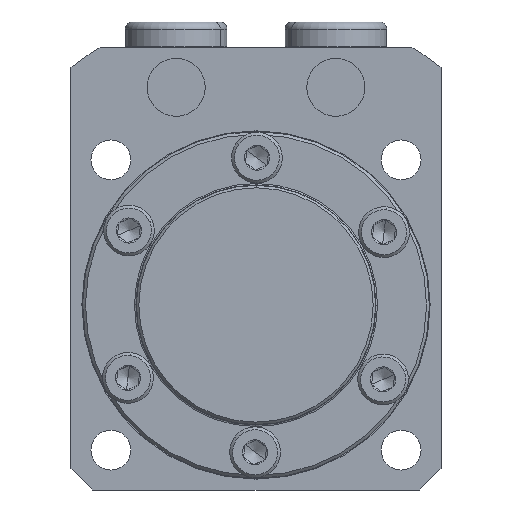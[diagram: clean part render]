
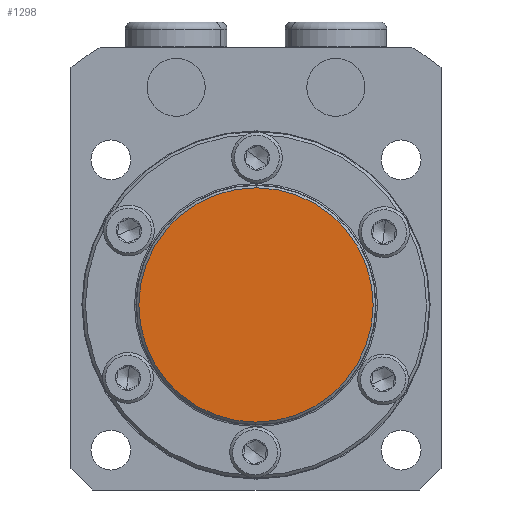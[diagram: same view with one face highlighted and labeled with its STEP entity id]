
A CAD part, front view. The second image highlights one B-rep face of the part: STEP entity #1298.
In plain terms, the highlighted planar face has unit normal (0, -1, 0).
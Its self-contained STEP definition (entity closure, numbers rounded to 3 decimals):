
#88 = VERTEX_POINT ( 'NONE', #5239 ) ;
#737 = CIRCLE ( 'NONE', #2956, 16.15 ) ;
#880 = EDGE_CURVE ( 'NONE', #88, #3233, #737, .T. ) ;
#1075 = CIRCLE ( 'NONE', #1588, 16.15 ) ;
#1184 = CARTESIAN_POINT ( 'NONE',  ( 0., -8.5, 0. ) ) ;
#1298 = ADVANCED_FACE ( 'NONE', ( #3672 ), #4182, .T. ) ;
#1588 = AXIS2_PLACEMENT_3D ( 'NONE', #4757, #2170, #5193 ) ;
#1612 = ORIENTED_EDGE ( 'NONE', *, *, #3847, .T. ) ;
#1910 = DIRECTION ( 'NONE',  ( 0., -1., 0. ) ) ;
#2170 = DIRECTION ( 'NONE',  ( 0., -1., 0. ) ) ;
#2484 = DIRECTION ( 'NONE',  ( 0., 0., -1. ) ) ;
#2956 = AXIS2_PLACEMENT_3D ( 'NONE', #4495, #1910, #4928 ) ;
#3233 = VERTEX_POINT ( 'NONE', #3663 ) ;
#3317 = EDGE_LOOP ( 'NONE', ( #4267, #1612 ) ) ;
#3477 = AXIS2_PLACEMENT_3D ( 'NONE', #1184, #5075, #2484 ) ;
#3663 = CARTESIAN_POINT ( 'NONE',  ( 0., -8.5, -16.15 ) ) ;
#3672 = FACE_OUTER_BOUND ( 'NONE', #3317, .T. ) ;
#3847 = EDGE_CURVE ( 'NONE', #3233, #88, #1075, .T. ) ;
#4182 = PLANE ( 'NONE',  #3477 ) ;
#4267 = ORIENTED_EDGE ( 'NONE', *, *, #880, .T. ) ;
#4495 = CARTESIAN_POINT ( 'NONE',  ( 0., -8.5, 0. ) ) ;
#4757 = CARTESIAN_POINT ( 'NONE',  ( 0., -8.5, 0. ) ) ;
#4928 = DIRECTION ( 'NONE',  ( 0., 0., -1. ) ) ;
#5075 = DIRECTION ( 'NONE',  ( 0., -1., 0. ) ) ;
#5193 = DIRECTION ( 'NONE',  ( 0., 0., -1. ) ) ;
#5239 = CARTESIAN_POINT ( 'NONE',  ( 0., -8.5, 16.15 ) ) ;
